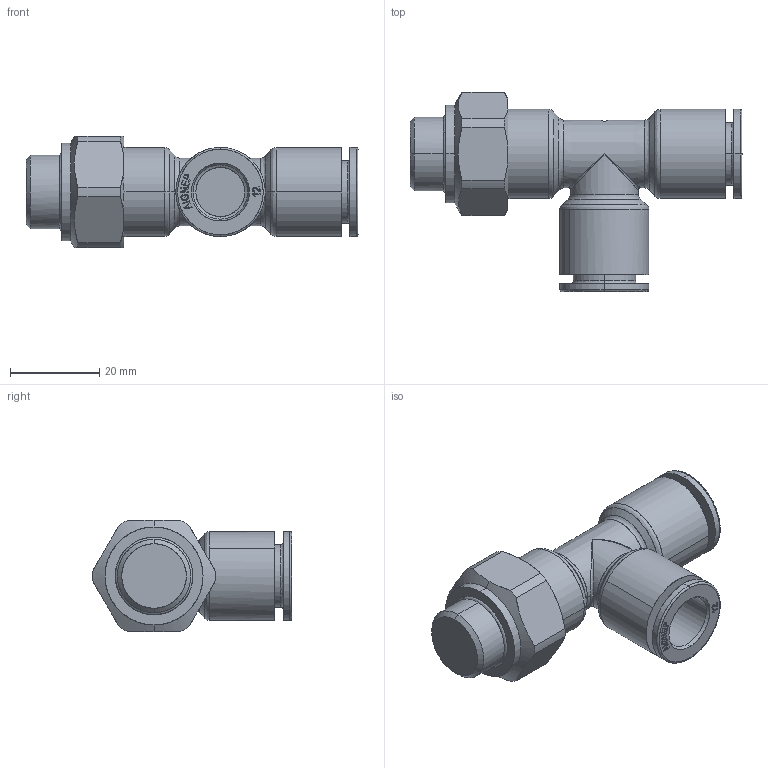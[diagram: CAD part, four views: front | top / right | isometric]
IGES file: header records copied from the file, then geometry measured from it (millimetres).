
Start section: SolidWorks IGES file using analytic representation for surfaces
Global section: file name: K:\Disegni Esecutivi\SERIE 54000\54000-Assiemi\54227\IGES e STEP\5422700025A.IGS; native system: SolidWorks 2020; preprocessor: SolidWorks 2020; author: LUCA COMETTI; date: 250701.164835; units: millimetre
Bounding box: 74.55 x 44.75 x 25 mm (x, y, z)
Surface area: 9735 mm2 (no closed solid volume)
Topology: 0 solids, 0 shells, 301 faces, 3037 edges, 3033 vertices
Faces by surface type: bspline 235, revolution 66
